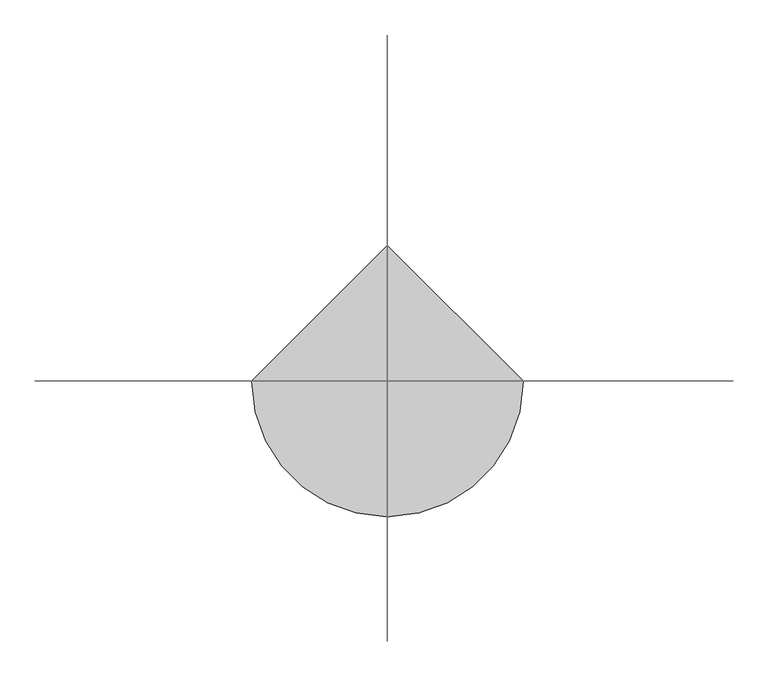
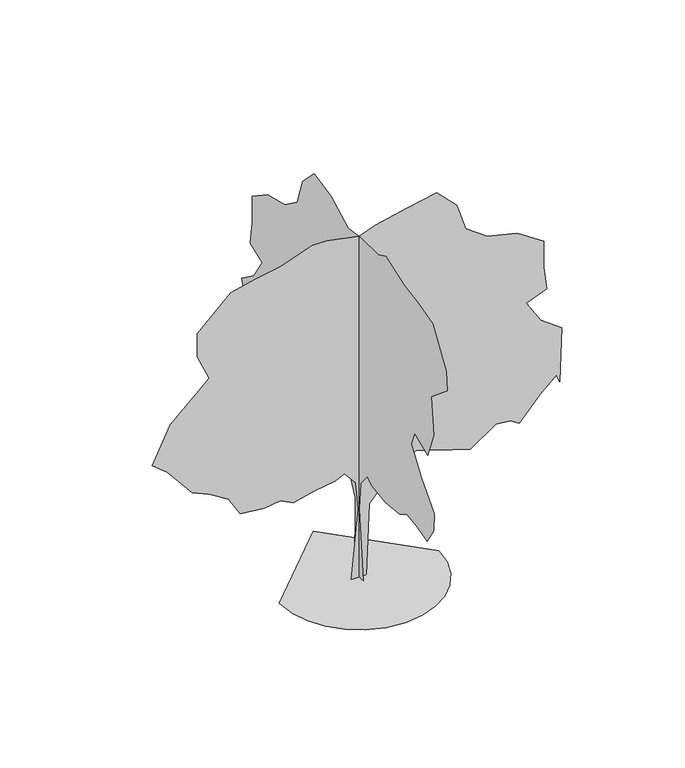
"""IFC4 building model written with IfcOpenShell, lengths in millimetres: geographic element geometry, RPC 木 - 秋 : ハナミズキ - 9.2 メートル."""

from ifc_helpers import new_model, si_unit, origin, place, context, project, spatial, triangles, source, transform, mapped, element, save


def geographic_element_c94a29e7(model_context):
    return source(origin(), model_context, "Body", "Tessellation", [
        triangles([(-193.4886802, 0.0008256, 1.61e-05), (-16.8295482, 0.0006077, 1763.0383163), (-82.914552, 0.0005288, 2448.4336899), (-355.2582936, 0.0005012, 2780.1654762), (-572.6008049, 0.0005239, 2669.58647), (-1103.0860119, 0.000557, 2586.7354225), (-1601.5092224, 0.0005922, 2473.5932007), (-1910.2179955, 0.0005876, 2625.349926), (-2304.9468086, 0.0006105, 2578.1231575), (-2887.4478813, 0.0006296, 2631.7899399), (-3155.9858505, 0.0005886, 3074.0803848), (-3171.7793633, 0.0005366, 3516.3705391), (-3731.6762924, 0.0005677, 3460.8128838), (-4047.7988571, 0.0005666, 3585.7796745), (-4657.2227051, 0.0005049, 4326.5080078), (-5022.4120422, 0.0004871, 4609.9959366), (-4584.8747955, 0.0003597, 5518.18992), (-3637.0951469, 0.0002153, 6382.1726486), (-3935.0987595, 0.0001512, 7028.5244751), (-3927.2021484, 7.99e-05, 7624.1741638), (-3115.8124306, -4.66e-05, 8387.851387), (-2515.5502327, -8.98e-05, 8530.017128), (-1915.2907963, -0.0001292, 8640.5958435), (-1125.4726542, -0.0001958, 8909.1341034), (-776.1177429, -0.0002102, 8901.8502457), (-0.874499, -0.0002224, 8742.1280182), (390.977298, -0.0002605, 8896.3813934), (1180.792824, -0.0003154, 9067.0930664), (1881.8002533, -0.0003619, 9200.0076279), (2365.5213089, -0.0003258, 8719.5881149), (2586.658683, -0.0002545, 8040.3464355), (3107.9413994, -0.000232, 7661.2294601), (3834.5886154, -0.0002431, 7487.4772751), (4482.2179802, -0.0002194, 7050.860321), (4482.2179802, -0.0001396, 6381.712793), (4561.2102516, -7.34e-05, 5797.2571884), (4055.721048, -2.87e-05, 5607.7112), (4415.4412422, 2.19e-05, 5051.2131912), (4924.5337143, 4.45e-05, 4675.7247734), (4877.8441223, 0.0002093, 3310.0860374), (4783.083918, 0.0001908, 3499.6317352), (4387.4580666, 0.0002506, 3143.4636497), (3890.4788086, 0.0003386, 2587.0932495), (3669.3207962, 0.0003314, 2729.2589905), (3314.5325684, 0.0003423, 2767.720015), (2699.3587807, 0.0004206, 2336.4185795), (2257.3879383, 0.0004239, 2470.8459846), (1830.8857738, 0.0004237, 2628.8000061), (1372.4213161, 0.000428, 2761.1012329), (1058.4531984, 0.0004733, 2495.8214951), (675.311178, 0.0005164, 2274.6736565), (562.2712392, 0.0005367, 2145.8198936), (249.9023516, 0.0005923, 1793.8480637), (174.5134031, 0.0008095, 0.0), (0.0021507, -183.9168444, 0.000528), (0.0022016, -7.2580905, 1763.0383163), (0.0022286, -73.3432249, 2448.4336899), (0.0021973, -345.6877295, 2780.1654762), (0.002183, -563.0302408, 2669.58647), (0.0021223, -1093.5129044, 2586.7354225), (0.0020641, -1716.1616718, 2653.793248), (0.0020247, -2016.2940788, 2827.5457237), (0.0020054, -2411.022892, 2780.3445351), (0.0019459, -2869.3033493, 2653.8188278), (0.0019196, -3137.8413185, 3096.0836929), (0.0019383, -3153.6348312, 3538.3738472), (0.0020226, -2616.5588928, 4154.4423477), (0.0020674, -2193.2613293, 4757.6305298), (0.0020761, -2348.0181622, 5111.4728851), (0.0020087, -2885.096862, 4881.0636932), (0.0019928, -3137.8413185, 5544.5121506), (0.0020376, -3043.055825, 6476.4982864), (0.0019989, -3706.5039917, 7029.3680283), (0.0020217, -3659.1240349, 7503.2704971), (0.0020845, -3106.2292946, 8387.851387), (0.0021509, -2505.9798866, 8530.017128), (0.0022158, -1905.7201595, 8640.5958435), (0.0023299, -1115.9020901, 8909.1341034), (0.0023368, -815.7722992, 8766.9683624), (0.0024377, -41.7506538, 8751.2257187), (0.0024564, 463.7314691, 8672.1822876), (0.0025732, 1190.3633881, 9067.0930664), (0.0026435, 1891.3707447, 9200.0076279), (0.0026776, 2375.0918003, 8719.5881149), (0.0026915, 2596.2421097, 8040.3464355), (0.0027316, 3117.524826, 7661.2294601), (0.0027896, 3844.1464622, 7487.4772751), (0.0028327, 4491.8014069, 7050.860321), (0.0028374, 4491.8014069, 6381.712793), (0.0028153, 4570.7936783, 5797.2571884), (0.002751, 4065.3044746, 5607.7112), (0.0027763, 4424.9990891, 5051.2131912), (0.002816, 4934.0918518, 4675.7247734), (0.002756, 4570.7936783, 3664.7463661), (0.0027601, 4476.0081848, 3854.3176437), (0.0027014, 4033.7177399, 3727.9451248), (0.002662, 3749.3606781, 3111.876915), (0.0026247, 3528.2285362, 3254.0426559), (0.0025317, 2638.1532143, 3567.2261559), (0.0025158, 2232.6092182, 3609.3163193), (0.0024947, 2185.5359287, 3175.0759644), (0.0024491, 1759.0337643, 3333.0349274), (0.0023938, 1300.9397781, 3301.4481926), (0.0023484, 1068.026306, 2495.8214951), (0.0022881, 684.8817421, 2274.6736565), (0.0022895, 447.9355946, 2543.2116257), (0.0022508, 162.7200278, 1943.2562405), (0.0022007, 184.0849846, 2.96e-05), (-1933.4735527, 0.0, 0.0087693), (-1882.3573414, -443.0237941, 0.0087143), (-1736.7851223, -849.8711626, 0.0086594), (-1508.4076378, -1208.8835512, 0.0086066), (-1208.8835512, -1508.4076378, 0.0085578), (-849.8711626, -1736.7825062, 0.0085149), (-443.0237941, -1882.3573414, 0.0084798), (7.44e-05, -1933.4735527, 0.0084543), (443.0237941, -1882.3573414, 0.0084411), (849.8711626, -1736.7851223, 0.0084406), (1208.8835512, -1508.4076378, 0.0084522), (1508.4076378, -1208.8835512, 0.0084748), (1736.7851223, -849.8711626, 0.0085076), (1882.3573414, -443.0237941, 0.0085497), (1933.4735527, 0.000169, 0.0086003), (-0.000265, 1933.4735527, 0.0089153)], [[39, 40, 41], [46, 47, 48], [42, 43, 44], [54, 1, 2], [53, 54, 2], [53, 2, 3], [52, 53, 3], [15, 16, 17], [38, 39, 41], [50, 51, 52], [49, 50, 52], [35, 36, 37], [38, 41, 42], [9, 10, 11], [15, 17, 18], [9, 11, 12], [9, 12, 13], [8, 9, 13], [42, 44, 45], [38, 42, 45], [37, 38, 45], [37, 45, 46], [52, 3, 4], [8, 13, 14], [49, 52, 4], [33, 34, 35], [33, 35, 37], [32, 33, 37], [32, 37, 46], [31, 32, 46], [18, 19, 20], [18, 20, 21], [18, 21, 22], [18, 22, 23], [28, 29, 30], [28, 30, 31], [27, 28, 31], [27, 31, 46], [26, 27, 46], [26, 46, 48], [26, 48, 49], [26, 49, 4], [25, 26, 4], [25, 4, 5], [25, 5, 6], [25, 6, 7], [25, 7, 8], [25, 8, 14], [25, 14, 15], [25, 15, 18], [25, 18, 23], [25, 23, 24], [93, 94, 95], [100, 101, 102], [96, 97, 98], [108, 55, 56], [107, 108, 56], [107, 56, 57], [106, 107, 57], [69, 70, 71], [92, 93, 95], [104, 105, 106], [103, 104, 106], [89, 90, 91], [92, 95, 96], [63, 64, 65], [69, 71, 72], [63, 65, 66], [63, 66, 67], [62, 63, 67], [96, 98, 99], [92, 96, 99], [91, 92, 99], [91, 99, 100], [106, 57, 58], [62, 67, 68], [103, 106, 58], [87, 88, 89], [87, 89, 91], [86, 87, 91], [86, 91, 100], [85, 86, 100], [72, 73, 74], [72, 74, 75], [72, 75, 76], [72, 76, 77], [82, 83, 84], [82, 84, 85], [81, 82, 85], [81, 85, 100], [80, 81, 100], [80, 100, 102], [80, 102, 103], [80, 103, 58], [79, 80, 58], [79, 58, 59], [79, 59, 60], [79, 60, 61], [79, 61, 62], [79, 62, 68], [79, 68, 69], [79, 69, 72], [79, 72, 77], [79, 77, 78], [123, 124, 109], [122, 123, 109], [122, 109, 110], [121, 122, 110], [121, 110, 111], [121, 111, 112], [120, 121, 112], [119, 120, 112], [119, 112, 113], [119, 113, 114], [119, 114, 115], [119, 115, 116], [119, 116, 117], [119, 117, 118]], closed=False),
    ])


if __name__ == "__main__":
    model = new_model("IFC4")
    model_context = context("Model", 3, world=origin())
    ifc_project = project(units=[si_unit("LENGTHUNIT", "METRE", prefix="MILLI")], contexts=[model_context])
    site = spatial("IfcSite", under=ifc_project)
    building = spatial("IfcBuilding", under=site)
    placement = place(None, origin())
    geographic_element_shape = geographic_element_c94a29e7(model_context)
    element("IfcGeographicElement", 1, ObjectType="RPC 木 - 秋 : ハナミズキ - 9.2 メートル", at=placement, inside=building, context=model_context, shape_type="MappedRepresentation", body=[
        mapped(geographic_element_shape, transform((0.0, 0.0, 0.0), x_axis=(1.0, 0.0, 0.0), y_axis=(0.0, 1.0, 0.0), z_axis=(0.0, 0.0, 1.0))),
    ])
    save(model, "model.ifc")
